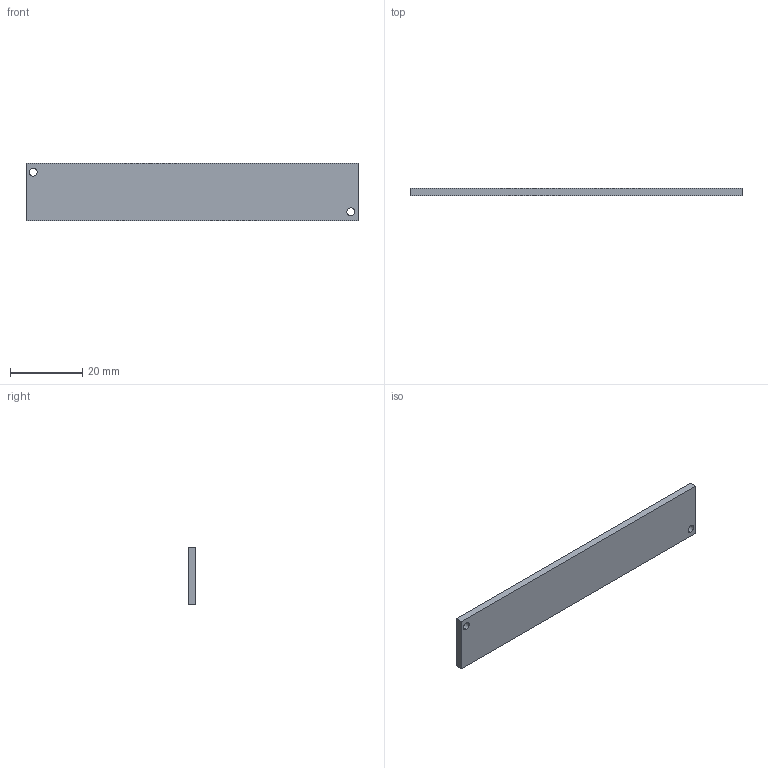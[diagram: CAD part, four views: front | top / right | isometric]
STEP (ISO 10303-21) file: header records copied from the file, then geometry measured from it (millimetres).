
FILE_DESCRIPTION (( 'STEP AP214' ), '1' );
FILE_NAME ('LBRM-00-080-3-DIFFUSER.STEP', '2021-11-05T07:09:46', ( '' ), ( '' ), 'SwSTEP 2.0', 'SolidWorks 2021', '' );
FILE_SCHEMA (( 'AUTOMOTIVE_DESIGN' ));
Length unit declared in the file: millimetre
Products named in the file (1): LBRM-00-080-3-DIFFUSER
Bounding box: 92 x 2 x 16 mm (x, y, z)
Volume: 2928.8 mm3; surface area: 3388.4 mm2
Topology: 1 solids, 1 shells, 10 faces, 24 edges, 16 vertices
Faces by surface type: plane 6, cylinder 4
Entity records: 338 total; most frequent: DIRECTION 54, CARTESIAN_POINT 51, ORIENTED_EDGE 48, EDGE_CURVE 24, AXIS2_PLACEMENT_3D 19, VERTEX_POINT 16, VECTOR 16, LINE 16
